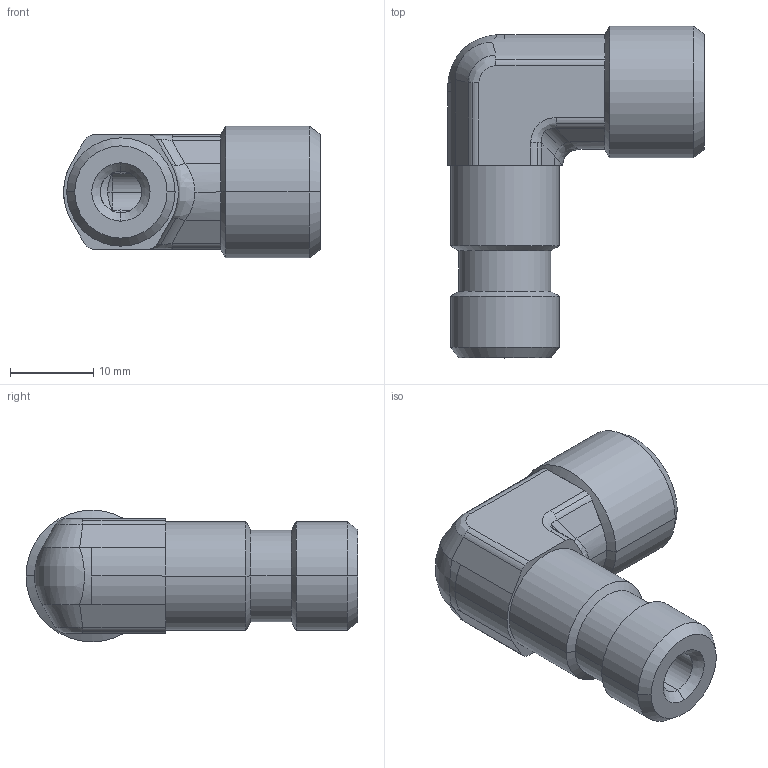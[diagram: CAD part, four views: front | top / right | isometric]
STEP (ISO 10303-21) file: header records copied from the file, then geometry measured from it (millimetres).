
FILE_DESCRIPTION((''),'2;1');
FILE_NAME('106115.stp','2007-10-31T14:49:54',(''),(''),'AutoCAD STEP 2000i','AutoCAD 2000i',', , ');
FILE_SCHEMA(('CONFIG_CONTROL_DESIGN'));
Length unit declared in the file: millimetre
Products named in the file (2): 106115.0; 3090#0
Assembly tree (1 placements, depth 2):
  106115.0
    3090#0
Bounding box: 30.9 x 39.92 x 15.85 mm (x, y, z)
Volume: 7044.7 mm3; surface area: 3678.6 mm2
Topology: 1 solids, 1 shells, 105 faces, 236 edges, 135 vertices
Faces by surface type: cylinder 48, cone 23, plane 22, bspline 12
Entity records: 3679 total; most frequent: CARTESIAN_POINT 1229, DIRECTION 526, ORIENTED_EDGE 472, EDGE_CURVE 236, AXIS2_PLACEMENT_3D 216, VERTEX_POINT 135, EDGE_LOOP 109, FACE_OUTER_BOUND 105
